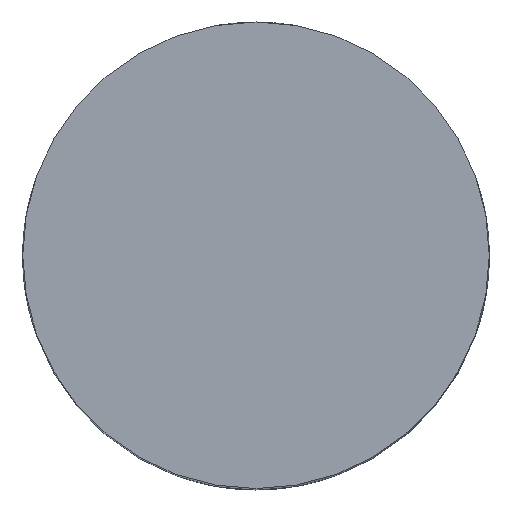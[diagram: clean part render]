
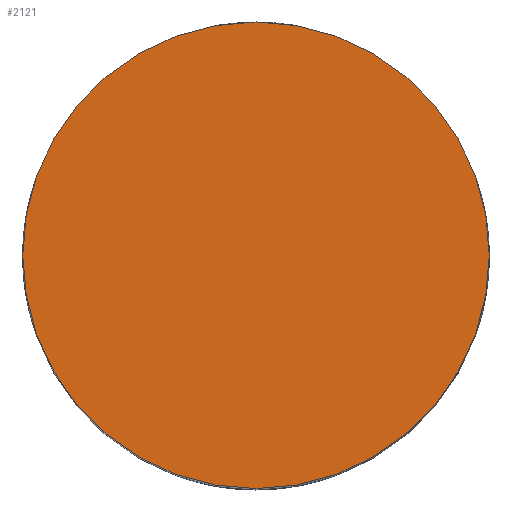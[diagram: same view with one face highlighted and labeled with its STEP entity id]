
A CAD part, top view. The second image highlights one B-rep face of the part: STEP entity #2121.
In plain terms, the highlighted planar face has unit normal (0, 0, 1).
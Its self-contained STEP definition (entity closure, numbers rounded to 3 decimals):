
#348 = AXIS2_PLACEMENT_3D ( 'NONE', #3015, #1283, #3279 ) ;
#355 = CARTESIAN_POINT ( 'NONE',  ( 0., 0., 150. ) ) ;
#371 = EDGE_LOOP ( 'NONE', ( #2782, #3344 ) ) ;
#475 = AXIS2_PLACEMENT_3D ( 'NONE', #1148, #591, #2625 ) ;
#591 = DIRECTION ( 'NONE',  ( 0., 0., 1. ) ) ;
#640 = DIRECTION ( 'NONE',  ( 1., 0., 0. ) ) ;
#1063 = CARTESIAN_POINT ( 'NONE',  ( 42.5, 0., 150. ) ) ;
#1148 = CARTESIAN_POINT ( 'NONE',  ( 0., 0., 150. ) ) ;
#1283 = DIRECTION ( 'NONE',  ( 0., 0., 1. ) ) ;
#1383 = CARTESIAN_POINT ( 'NONE',  ( -42.5, 0., 150. ) ) ;
#1594 = CIRCLE ( 'NONE', #348, 42.5 ) ;
#1759 = VERTEX_POINT ( 'NONE', #1063 ) ;
#2121 = ADVANCED_FACE ( 'NONE', ( #2525 ), #2328, .T. ) ;
#2206 = EDGE_CURVE ( 'NONE', #2477, #1759, #2948, .T. ) ;
#2235 = AXIS2_PLACEMENT_3D ( 'NONE', #355, #2372, #640 ) ;
#2328 = PLANE ( 'NONE',  #475 ) ;
#2372 = DIRECTION ( 'NONE',  ( 0., 0., 1. ) ) ;
#2477 = VERTEX_POINT ( 'NONE', #1383 ) ;
#2525 = FACE_OUTER_BOUND ( 'NONE', #371, .T. ) ;
#2625 = DIRECTION ( 'NONE',  ( 1., 0., 0. ) ) ;
#2782 = ORIENTED_EDGE ( 'NONE', *, *, #2206, .T. ) ;
#2948 = CIRCLE ( 'NONE', #2235, 42.5 ) ;
#3015 = CARTESIAN_POINT ( 'NONE',  ( 0., 0., 150. ) ) ;
#3279 = DIRECTION ( 'NONE',  ( 1., 0., 0. ) ) ;
#3344 = ORIENTED_EDGE ( 'NONE', *, *, #3572, .T. ) ;
#3572 = EDGE_CURVE ( 'NONE', #1759, #2477, #1594, .T. ) ;
